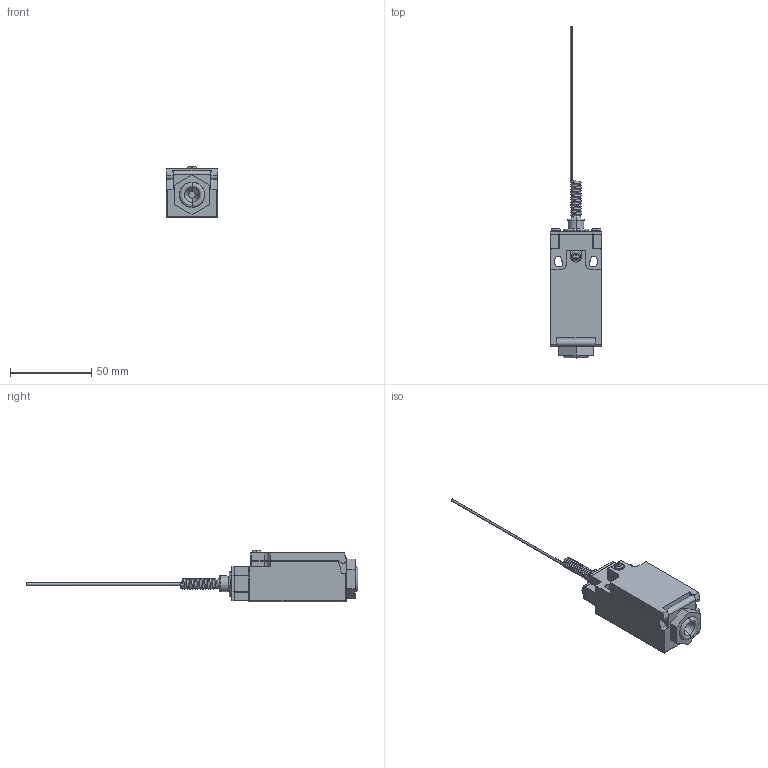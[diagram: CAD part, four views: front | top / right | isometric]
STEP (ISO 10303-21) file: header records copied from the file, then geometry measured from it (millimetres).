
FILE_DESCRIPTION (( 'STEP AP203' ), '1' );
FILE_NAME ('FM9269.STEP', '2018-06-01T17:01:12', ( '' ), ( '' ), 'SwSTEP 2.0', 'SolidWorks 2012', '' );
FILE_SCHEMA (( 'CONFIG_CONTROL_DESIGN' ));
Length unit declared in the file: millimetre
Products named in the file (1): FM9269
Bounding box: 31.5 x 204.54 x 31.5 mm (x, y, z)
Volume: 61717.1 mm3; surface area: 13723.7 mm2
Topology: 1 solids, 1 shells, 246 faces, 664 edges, 420 vertices
Faces by surface type: plane 149, cylinder 58, torus 23, cone 8, bspline 4, sphere 4
Entity records: 11502 total; most frequent: CARTESIAN_POINT 5249, ORIENTED_EDGE 1320, DIRECTION 1265, EDGE_CURVE 660, LINE 429, VECTOR 429, VERTEX_POINT 420, AXIS2_PLACEMENT_3D 418
